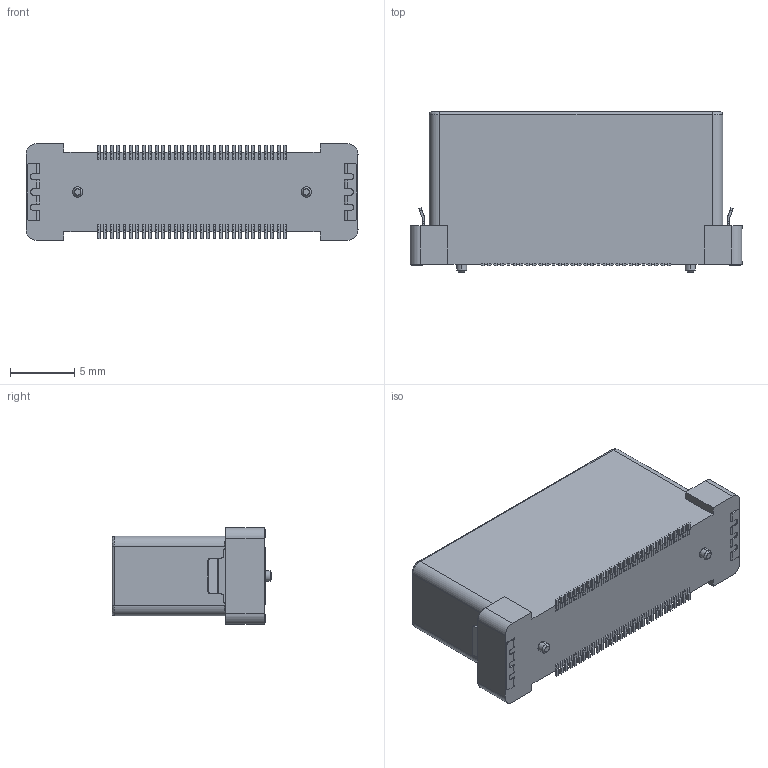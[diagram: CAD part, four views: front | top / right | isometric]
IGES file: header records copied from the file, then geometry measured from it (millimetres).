
Start section: SolidWorks IGES file using analytic representation for surfaces
Bounding box: 25.84 x 12.45 x 7.5 mm (x, y, z)
Surface area: 1366.1 mm2 (no closed solid volume)
Topology: 0 solids, 0 shells, 1440 faces, 9046 edges, 9042 vertices
Faces by surface type: bspline 901, revolution 539
